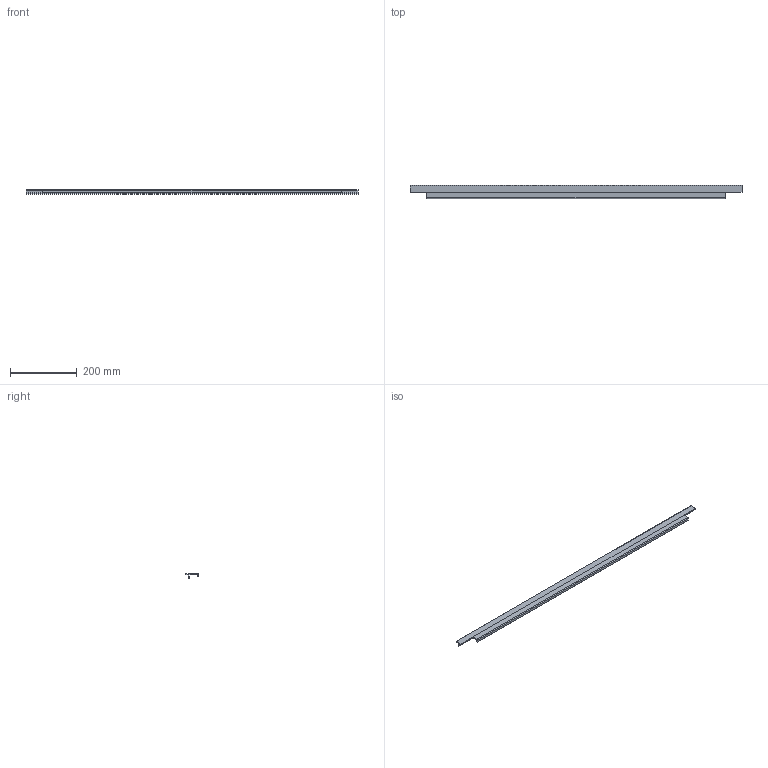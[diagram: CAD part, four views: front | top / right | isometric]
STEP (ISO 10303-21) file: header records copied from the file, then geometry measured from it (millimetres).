
FILE_DESCRIPTION( ( '' ), '1' );
FILE_NAME( 'C:/Documents and Settings/Nikhil/Desktop/Nik/Done/9105825.stp', '2013-10-23T08:15:20', ( '' ), ( '' ), ' ', ' ', ' ' );
FILE_SCHEMA( ( 'automotive_design' ) );
Length unit declared in the file: millimetre
Products named in the file (1): 1
Bounding box: 995 x 39 x 14 mm (x, y, z)
Volume: 147733 mm3; surface area: 112111.1 mm2
Topology: 1 solids, 1 shells, 40 faces, 112 edges, 74 vertices
Faces by surface type: plane 30, cylinder 10
Entity records: 2554 total; most frequent: STYLED_ITEM 227, PRESENTATION_STYLE_ASSIGNMENT 227, CARTESIAN_POINT 227, COLOUR_RGB 227, ORIENTED_EDGE 224, DIRECTION 214, EDGE_CURVE 112, CURVE_STYLE 112
